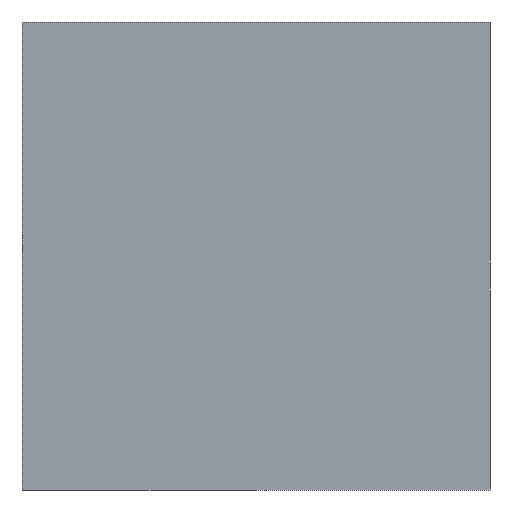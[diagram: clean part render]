
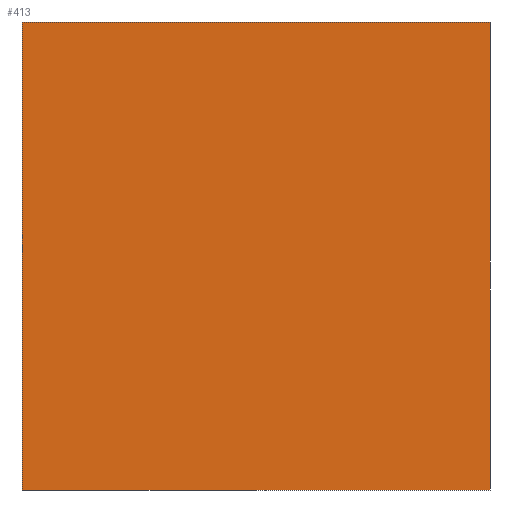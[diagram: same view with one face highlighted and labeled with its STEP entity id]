
A CAD part, left-side view. The second image highlights one B-rep face of the part: STEP entity #413.
In plain terms, the highlighted planar face has unit normal (-1, 0, 0).
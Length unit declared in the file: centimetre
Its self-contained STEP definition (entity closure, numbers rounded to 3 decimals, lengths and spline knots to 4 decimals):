
#43 = EDGE_CURVE ( 'NONE', #466, #755, #591, .T. ) ;
#49 = CARTESIAN_POINT ( 'NONE',  ( 0., 0., 0. ) ) ;
#81 = EDGE_CURVE ( 'NONE', #457, #466, #715, .T. ) ;
#110 = EDGE_LOOP ( 'NONE', ( #773, #525, #749, #571 ) ) ;
#123 = DIRECTION ( 'NONE',  ( 0., -1., 0. ) ) ;
#144 = VECTOR ( 'NONE', #303, 100. ) ;
#147 = PLANE ( 'NONE',  #393 ) ;
#161 = DIRECTION ( 'NONE',  ( 0., 0., -1. ) ) ;
#168 = DIRECTION ( 'NONE',  ( 0., 0., -1. ) ) ;
#178 = CARTESIAN_POINT ( 'NONE',  ( 0., 1000., 1000. ) ) ;
#201 = EDGE_CURVE ( 'NONE', #457, #415, #432, .T. ) ;
#280 = DIRECTION ( 'NONE',  ( 0., -1., 0. ) ) ;
#303 = DIRECTION ( 'NONE',  ( 0., 0., -1. ) ) ;
#356 = VECTOR ( 'NONE', #280, 100. ) ;
#371 = CARTESIAN_POINT ( 'NONE',  ( 0., 1000., 1000. ) ) ;
#393 = AXIS2_PLACEMENT_3D ( 'NONE', #706, #398, #161 ) ;
#398 = DIRECTION ( 'NONE',  ( 1., 0., 0. ) ) ;
#407 = CARTESIAN_POINT ( 'NONE',  ( 0., 0., 1000. ) ) ;
#413 = ADVANCED_FACE ( 'NONE', ( #467 ), #147, .F. ) ;
#415 = VERTEX_POINT ( 'NONE', #407 ) ;
#420 = CARTESIAN_POINT ( 'NONE',  ( 0., 1000., 1000. ) ) ;
#432 = LINE ( 'NONE', #371, #600 ) ;
#457 = VERTEX_POINT ( 'NONE', #178 ) ;
#461 = CARTESIAN_POINT ( 'NONE',  ( 0., 1000., 0. ) ) ;
#466 = VERTEX_POINT ( 'NONE', #661 ) ;
#467 = FACE_OUTER_BOUND ( 'NONE', #110, .T. ) ;
#525 = ORIENTED_EDGE ( 'NONE', *, *, #692, .F. ) ;
#571 = ORIENTED_EDGE ( 'NONE', *, *, #81, .T. ) ;
#591 = LINE ( 'NONE', #461, #356 ) ;
#596 = CARTESIAN_POINT ( 'NONE',  ( 0., 0., 1000. ) ) ;
#600 = VECTOR ( 'NONE', #123, 100. ) ;
#661 = CARTESIAN_POINT ( 'NONE',  ( 0., 1000., 0. ) ) ;
#681 = LINE ( 'NONE', #596, #144 ) ;
#692 = EDGE_CURVE ( 'NONE', #415, #755, #681, .T. ) ;
#706 = CARTESIAN_POINT ( 'NONE',  ( 0., 1000., 1000. ) ) ;
#715 = LINE ( 'NONE', #420, #763 ) ;
#749 = ORIENTED_EDGE ( 'NONE', *, *, #201, .F. ) ;
#755 = VERTEX_POINT ( 'NONE', #49 ) ;
#763 = VECTOR ( 'NONE', #168, 100. ) ;
#773 = ORIENTED_EDGE ( 'NONE', *, *, #43, .T. ) ;
